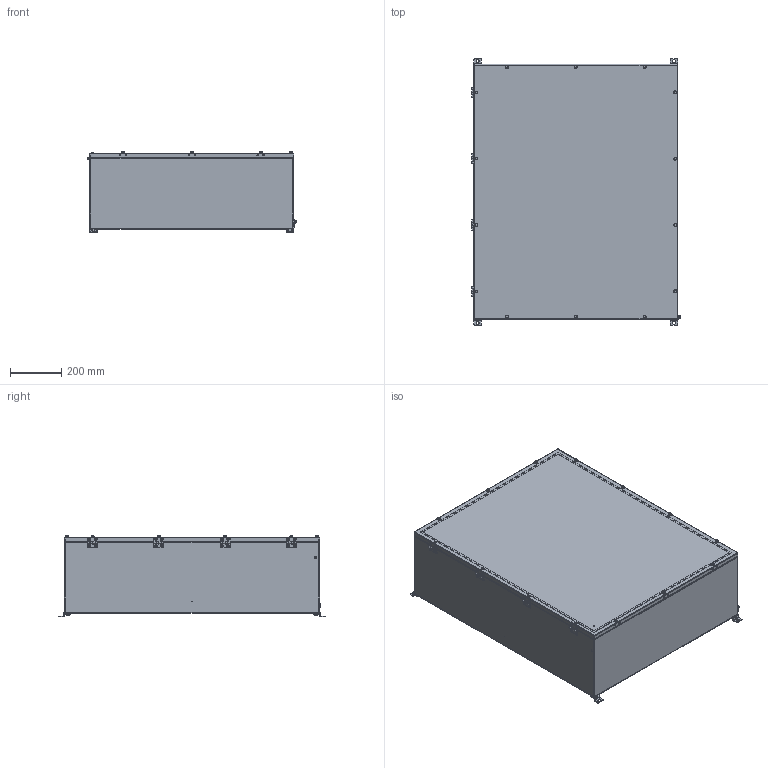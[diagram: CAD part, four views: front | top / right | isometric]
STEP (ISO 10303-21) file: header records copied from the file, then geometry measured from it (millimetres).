
FILE_DESCRIPTION (( 'STEP AP203' ), '1' );
FILE_NAME ('W4634.07.24.01.STEP', '2024-07-16T13:51:35', ( '' ), ( '' ), 'SwSTEP 2.0', 'SolidWorks 2018', '' );
FILE_SCHEMA (( 'CONFIG_CONTROL_DESIGN' ));
Products named in the file (1): W4634.07.24.01
Bounding box: 819.19 x 1044 x 319.8 mm (x, y, z)
Volume: 6865168.2 mm3; surface area: 7083342.7 mm2
Topology: 3 solids, 78 shells, 3106 faces, 7404 edges, 4689 vertices
Faces by surface type: plane 1893, cylinder 737, cone 309, torus 95, sphere 60, bspline 12
Full cylindrical faces by diameter (mm): 0.75 x3, 0.8 x8, 1 x12, 3.2 x16, 4 x16, 4.6 x10, 4.891 x8, 5 x40, 5.134 x8, 5.2 x5, 5.5 x4, 5.9 x24, 6 x32, 6.1 x14, 6.4 x26, 6.5 x9, 6.9 x4, 7 x31, 7.3 x14, 7.5 x29, 8 x13, 8.9 x24, 9 x5, 10 x10, 11.2 x8, 12 x34, 12.7 x28, 13 x10
Entity records: 86023 total; most frequent: CARTESIAN_POINT 17936, DIRECTION 14350, ORIENTED_EDGE 12680, EDGE_CURVE 6340, AXIS2_PLACEMENT_3D 5312, VERTEX_POINT 4360, EDGE_LOOP 4272, LINE 3726
